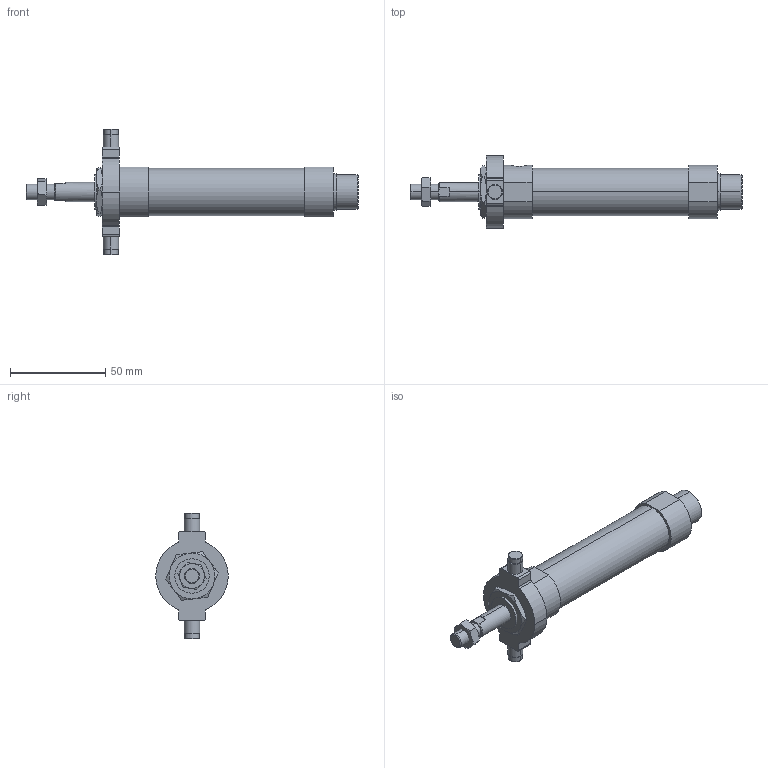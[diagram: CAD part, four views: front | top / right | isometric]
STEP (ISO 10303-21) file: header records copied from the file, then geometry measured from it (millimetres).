
FILE_DESCRIPTION (( 'STEP AP203' ), '1' );
FILE_NAME ('J#0-20-15-T.STEP', '2016-03-08T06:16:09', ( '' ), ( '' ), 'SwSTEP 2.0', 'SolidWorks 2014', '' );
FILE_SCHEMA (( 'CONFIG_CONTROL_DESIGN' ));
Length unit declared in the file: millimetre
Products named in the file (5): J#0-20-15-T; J#0-20-15; J#2-20-T
Assembly tree (4 placements, depth 2):
  J#0-20-15-T
    J#0-20-15
    (unnamed)
    (unnamed)
    J#2-20-T
Bounding box: 174 x 38 x 66 mm (x, y, z)
Volume: 77816.6 mm3; surface area: 19035.5 mm2
Topology: 4 solids, 4 shells, 128 faces, 285 edges, 176 vertices
Faces by surface type: cylinder 45, plane 45, torus 24, cone 14
Entity records: 4356 total; most frequent: CARTESIAN_POINT 986, DIRECTION 627, ORIENTED_EDGE 570, EDGE_CURVE 285, AXIS2_PLACEMENT_3D 261, VERTEX_POINT 176, EDGE_LOOP 145, FACE_OUTER_BOUND 128
